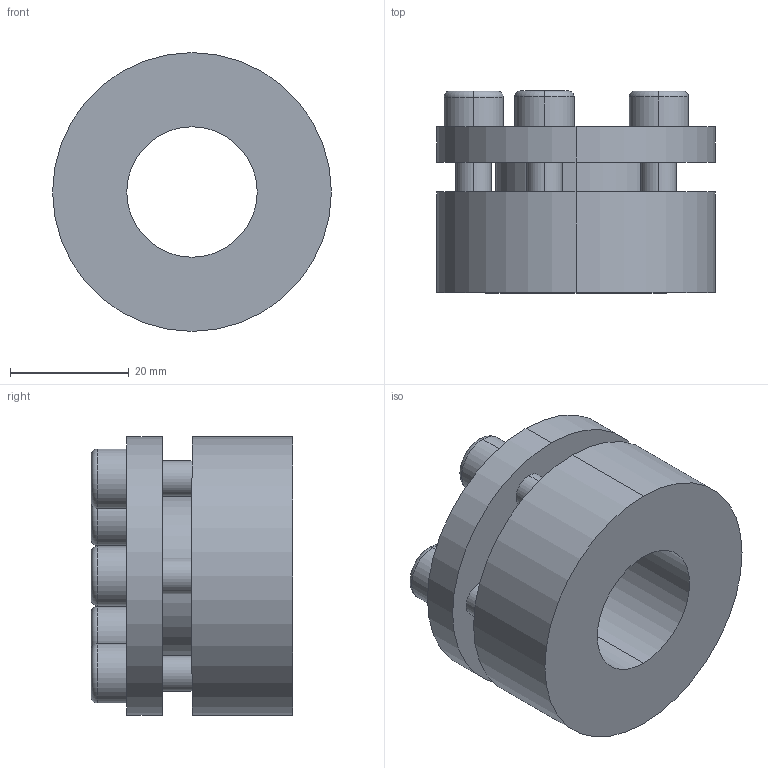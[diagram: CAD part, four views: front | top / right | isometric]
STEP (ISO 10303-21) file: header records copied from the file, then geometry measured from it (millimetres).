
FILE_DESCRIPTION (( 'STEP AP203' ), '1' );
FILE_NAME ('PL-H3 22-47.STEP', '2021-10-23T01:06:16', ( '' ), ( '' ), 'SwSTEP 2.0', 'SolidWorks 2018', '' );
FILE_SCHEMA (( 'CONFIG_CONTROL_DESIGN' ));
Length unit declared in the file: millimetre
Products named in the file (1): PL-H3 22-47
Bounding box: 47 x 34 x 47 mm (x, y, z)
Volume: 34828.9 mm3; surface area: 12110.9 mm2
Topology: 1 solids, 1 shells, 82 faces, 194 edges, 126 vertices
Faces by surface type: plane 44, cylinder 28, torus 10
Entity records: 2475 total; most frequent: DIRECTION 436, CARTESIAN_POINT 403, ORIENTED_EDGE 388, EDGE_CURVE 194, AXIS2_PLACEMENT_3D 159, VERTEX_POINT 126, VECTOR 118, LINE 118
